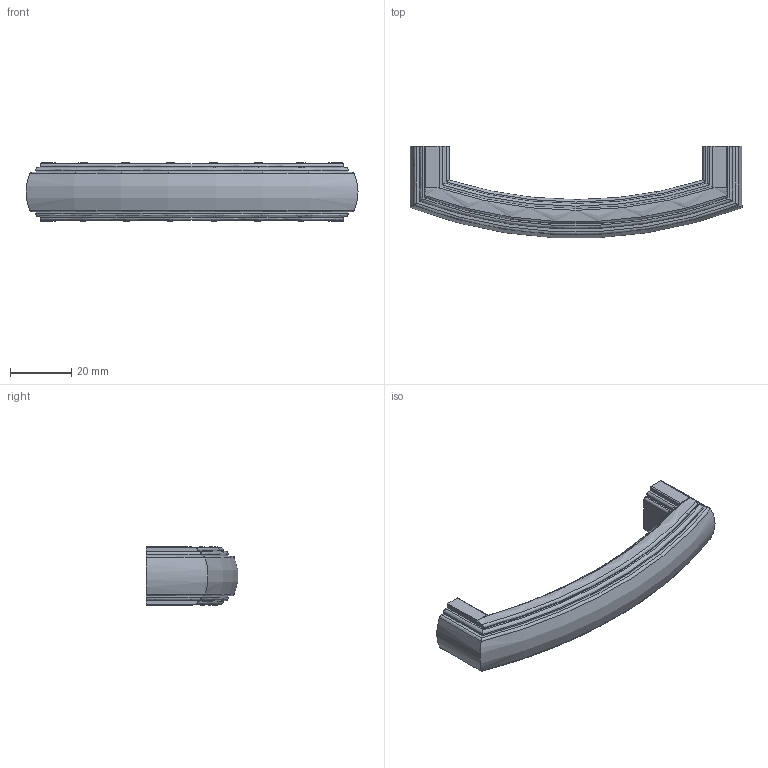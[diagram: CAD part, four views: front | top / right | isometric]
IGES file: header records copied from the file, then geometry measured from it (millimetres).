
Start section: Data from Parasolid IGES Translator 15.0.47, Copyright(c) 2006 Siemens P LM Software. All Rights Reserved.
Global section: file name: 9131285.igs; native system:  By UGS Corp.; preprocessor: XPlus GENERIC/IGES 3.0; author: Noname; organization: Noname; date: 20140122.103130; units: millimetre
Bounding box: 108 x 29.66 x 19 mm (x, y, z)
Surface area: 7782.5 mm2 (no closed solid volume)
Topology: 0 solids, 0 shells, 94 faces, 516 edges, 514 vertices
Faces by surface type: revolution 56, extrusion 38
